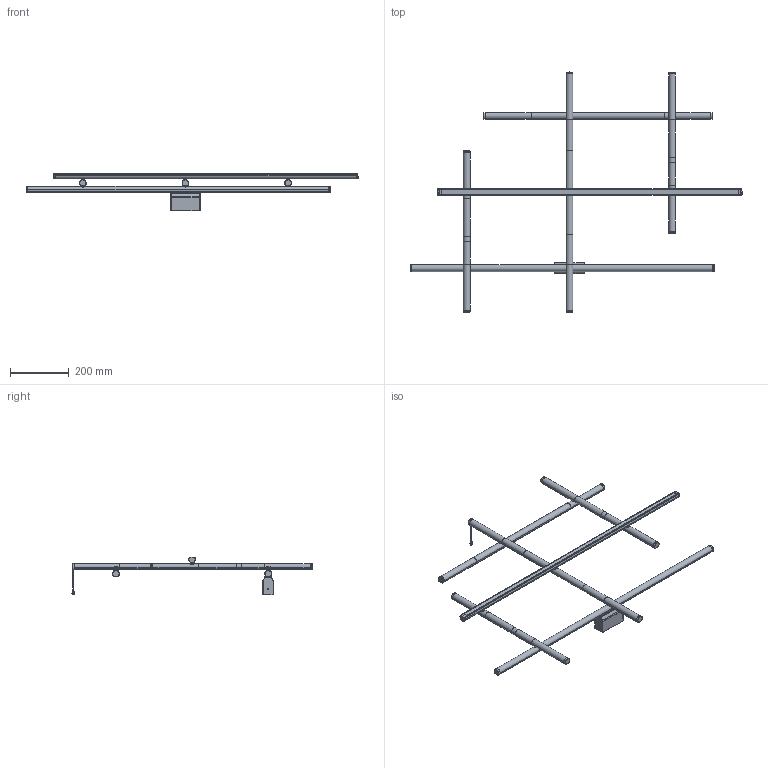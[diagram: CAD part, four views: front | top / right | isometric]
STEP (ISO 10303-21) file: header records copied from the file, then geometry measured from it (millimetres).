
FILE_DESCRIPTION(/* description */ (''),/* implementation_level */ '2;1');
FILE_NAME(/* name */ 'A029__~2',/* time_stamp */ '2024-06-28T17:20:20+02:00',/* author */ (''),/* organization */ (''),/* preprocessor_version */ 'ST-DEVELOPER v16.5',/* originating_system */ '',/* authorisation */ '');
FILE_SCHEMA (('AUTOMOTIVE_DESIGN'));
Length unit declared in the file: millimetre
Products named in the file (1): Document
Bounding box: 1131.82 x 818.4 x 129.54 mm (x, y, z)
Volume: 1588730.6 mm3; surface area: 668051.1 mm2
Topology: 22 solids, 34 shells, 1620 faces, 3788 edges, 2173 vertices
Faces by surface type: bspline 1079, plane 541
Entity records: 54608 total; most frequent: CARTESIAN_POINT 32274, ORIENTED_EDGE 7440, EDGE_CURVE 3744, VERTEX_POINT 2173, B_SPLINE_CURVE_WITH_KNOTS 2074, EDGE_LOOP 1649, ADVANCED_FACE 1620, FACE_OUTER_BOUND 1620
